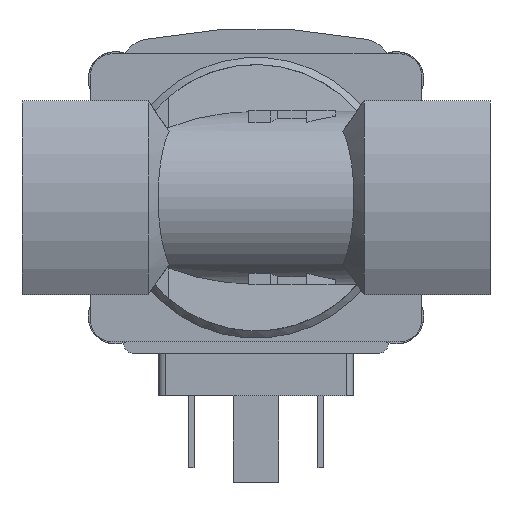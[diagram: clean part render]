
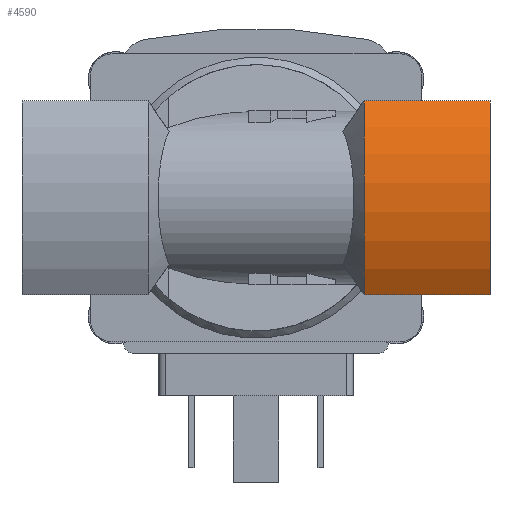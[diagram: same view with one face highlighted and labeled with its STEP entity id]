
A CAD part, front view. The second image highlights one B-rep face of the part: STEP entity #4590.
In plain terms, the highlighted cylindrical face has radius 25 mm (diameter 50 mm), a partial arc.
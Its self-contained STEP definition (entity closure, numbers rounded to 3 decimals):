
#316=CIRCLE('',#5605,25.);
#317=CIRCLE('',#5606,25.);
#741=ORIENTED_EDGE('',*,*,#1993,.T.);
#742=ORIENTED_EDGE('',*,*,#1994,.F.);
#743=ORIENTED_EDGE('',*,*,#1995,.F.);
#744=ORIENTED_EDGE('',*,*,#1991,.T.);
#1991=EDGE_CURVE('',#2624,#2623,#3054,.T.);
#1993=EDGE_CURVE('',#2623,#2625,#316,.T.);
#1994=EDGE_CURVE('',#2626,#2625,#3056,.T.);
#1995=EDGE_CURVE('',#2624,#2626,#317,.T.);
#2623=VERTEX_POINT('',#7806);
#2624=VERTEX_POINT('',#7808);
#2625=VERTEX_POINT('',#7812);
#2626=VERTEX_POINT('',#7814);
#3054=LINE('',#7807,#3456);
#3056=LINE('',#7813,#3458);
#3456=VECTOR('',#6284,1000.);
#3458=VECTOR('',#6290,1000.);
#3813=EDGE_LOOP('',(#741,#742,#743,#744));
#4165=FACE_BOUND('',#3813,.T.);
#4487=CYLINDRICAL_SURFACE('',#5604,25.);
#4590=ADVANCED_FACE('',(#4165),#4487,.T.);
#5604=AXIS2_PLACEMENT_3D('',#7810,#6286,#6287);
#5605=AXIS2_PLACEMENT_3D('',#7811,#6288,#6289);
#5606=AXIS2_PLACEMENT_3D('',#7815,#6291,#6292);
#6284=DIRECTION('',(-1.,0.,0.));
#6286=DIRECTION('',(-1.,0.,0.));
#6287=DIRECTION('',(0.,0.,1.));
#6288=DIRECTION('',(1.,0.,0.));
#6289=DIRECTION('',(0.,0.,-1.));
#6290=DIRECTION('',(-1.,0.,0.));
#6291=DIRECTION('',(1.,0.,0.));
#6292=DIRECTION('',(0.,0.,-1.));
#7806=CARTESIAN_POINT('',(15.,-10.074,13.45));
#7807=CARTESIAN_POINT('',(32.5,-10.074,13.45));
#7808=CARTESIAN_POINT('',(32.5,-10.074,13.45));
#7810=CARTESIAN_POINT('',(32.5,11.,0.));
#7811=CARTESIAN_POINT('',(15.,11.,0.));
#7812=CARTESIAN_POINT('',(15.,-10.074,-13.45));
#7813=CARTESIAN_POINT('',(32.5,-10.074,-13.45));
#7814=CARTESIAN_POINT('',(32.5,-10.074,-13.45));
#7815=CARTESIAN_POINT('',(32.5,11.,0.));
